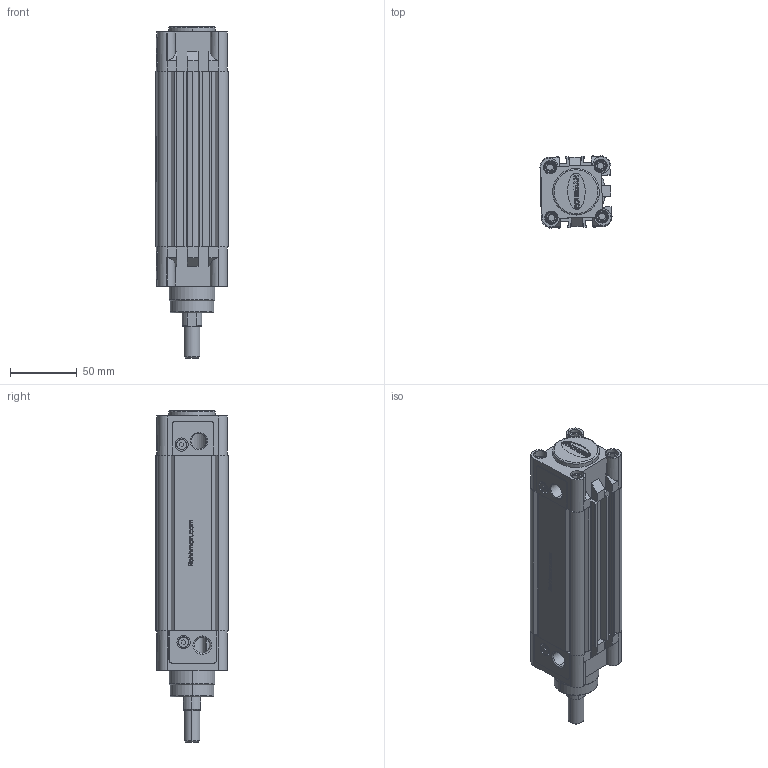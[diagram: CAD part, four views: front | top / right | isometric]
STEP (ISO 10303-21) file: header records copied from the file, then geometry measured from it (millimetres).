
FILE_DESCRIPTION (( 'STEP AP214' ), '1' );
FILE_NAME ('RIC_40_100_WEB.STEP', '2021-01-10T10:49:34', ( '' ), ( '' ), 'SwSTEP 2.0', 'SolidWorks 2021', '' );
FILE_SCHEMA (( 'AUTOMOTIVE_DESIGN' ));
Length unit declared in the file: millimetre
Products named in the file (8): RIC_40_100_WEB; ric40onkapak; ric40bogazkecesi; m6kapakcivatasi; RIC_40_BORU_WEB_RIC 40-250; 16_K_MIL_WEB; ric40arkakapak; yastýklama civatasý
Assembly tree (15 placements, depth 2):
  RIC_40_100_WEB
    ric40arkakapak
    ric40onkapak
    RIC_40_BORU_WEB_RIC 40-250
    ric40bogazkecesi
    yastýklama civatasý  x2
    m6kapakcivatasi  x8
    16_K_MIL_WEB
Bounding box: 54.22 x 54.22 x 249.5 mm (x, y, z)
Volume: 272135 mm3; surface area: 129227.9 mm2
Topology: 22 solids, 22 shells, 1035 faces, 2485 edges, 1585 vertices
Faces by surface type: plane 553, cylinder 227, cone 131, bspline 98, torus 26
Entity records: 31879 total; most frequent: CARTESIAN_POINT 10352, ORIENTED_EDGE 3982, DIRECTION 3656, EDGE_CURVE 1991, VERTEX_POINT 1289, LINE 1264, VECTOR 1264, AXIS2_PLACEMENT_3D 1196
